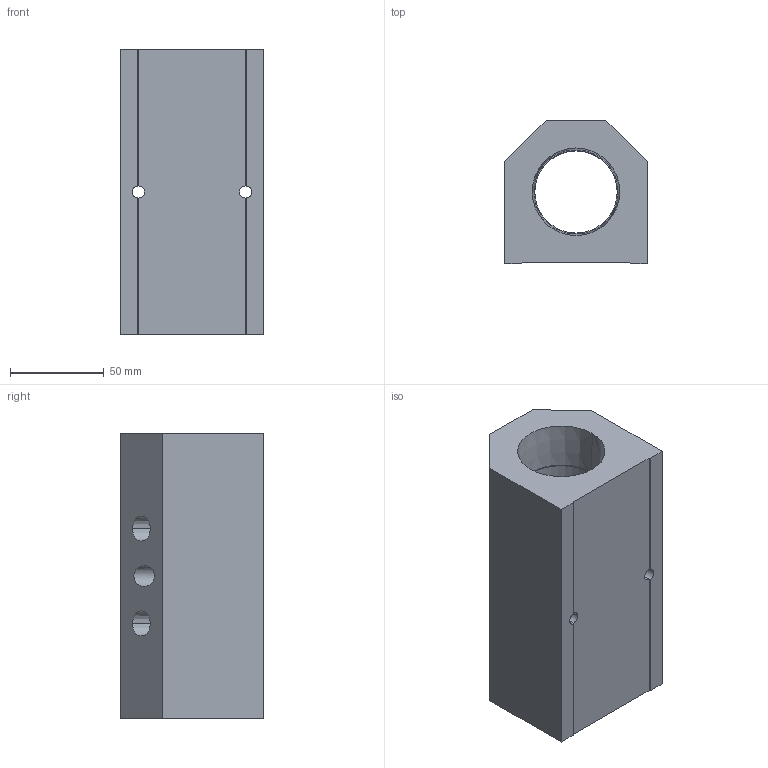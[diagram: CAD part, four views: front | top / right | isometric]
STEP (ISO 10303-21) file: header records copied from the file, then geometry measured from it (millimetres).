
FILE_DESCRIPTION (( 'STEP AP214' ), '1' );
FILE_NAME ('ALM2BCD-N4N24-152B.step', '2022-02-07T07:46:08', ( '' ), ( '' ), 'SwSTEP 2.0', 'SolidWorks 2020', '' );
FILE_SCHEMA (( 'AUTOMOTIVE_DESIGN' ));
Length unit declared in the file: millimetre
Products named in the file (1): ALM2BCD-N4N24-152B
Bounding box: 76.2 x 76.2 x 152 mm (x, y, z)
Volume: 547468.4 mm3; surface area: 76243.3 mm2
Topology: 1 solids, 1 shells, 312 faces, 824 edges, 548 vertices
Faces by surface type: plane 222, bspline 64, cone 16, cylinder 10
Entity records: 17297 total; most frequent: CARTESIAN_POINT 6911, ORIENTED_EDGE 1648, DIRECTION 1210, EDGE_CURVE 824, VECTOR 640, LINE 640, VERTEX_POINT 548, EDGE_LOOP 364
